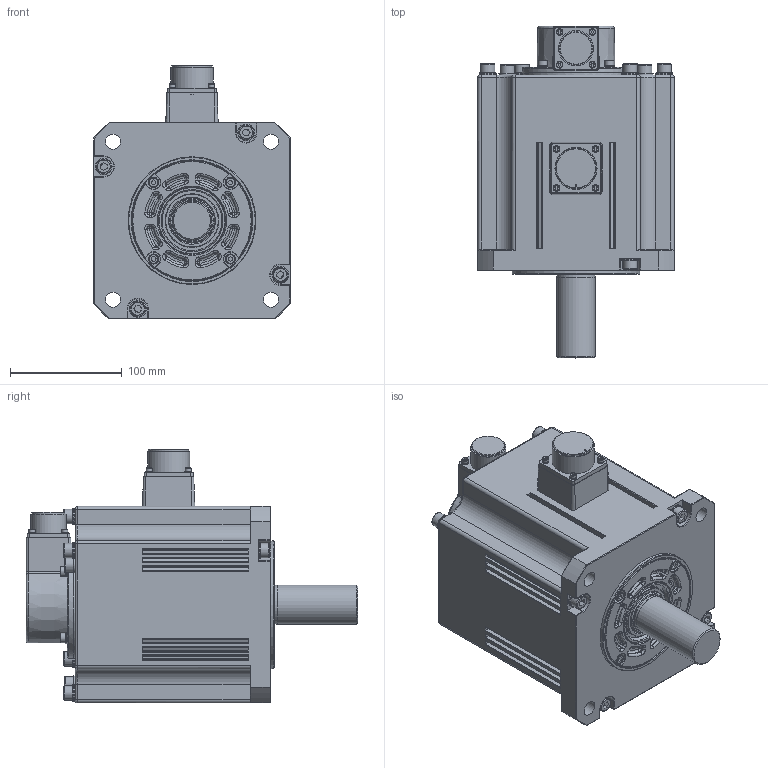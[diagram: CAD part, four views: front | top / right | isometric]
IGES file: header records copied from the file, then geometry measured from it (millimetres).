
Global section: file name: 7HNo Iges File Name specified; native system: AutoDesk Inventor R12.0; preprocessor: AutoDesk Inventor Iges Exporter R12.0; author: No Author specified; organization: No Organization specified; date: 20160715.195006; units: millimetre
Bounding box: 176 x 297 x 227.3 mm (x, y, z)
Volume: 5067828.2 mm3; surface area: 380847.9 mm2
Topology: 1 solids, 56 shells, 1653 faces, 3596 edges, 2203 vertices
Faces by surface type: plane 620, revolution 451, cylinder 280, torus 227, cone 44, bspline 23, sphere 8
Full cylindrical faces by diameter (mm): 3 x8, 3.7 x2, 5 x8, 5.5 x8, 6 x15, 8 x11, 8.5 x8, 9 x8, 13 x11, 15 x11, 24 x1, 29 x1, 29.5 x1, 31.5 x1, 34.8 x1, 35 x2, 36 x1, 37.7 x1, 38 x3, 40 x3, 47.112 x2, 60 x1, 68.463 x1, 69.6 x2, 83 x1, 95.8 x1, 114.3 x1, 156 x1, 161 x1, 165.7 x2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
